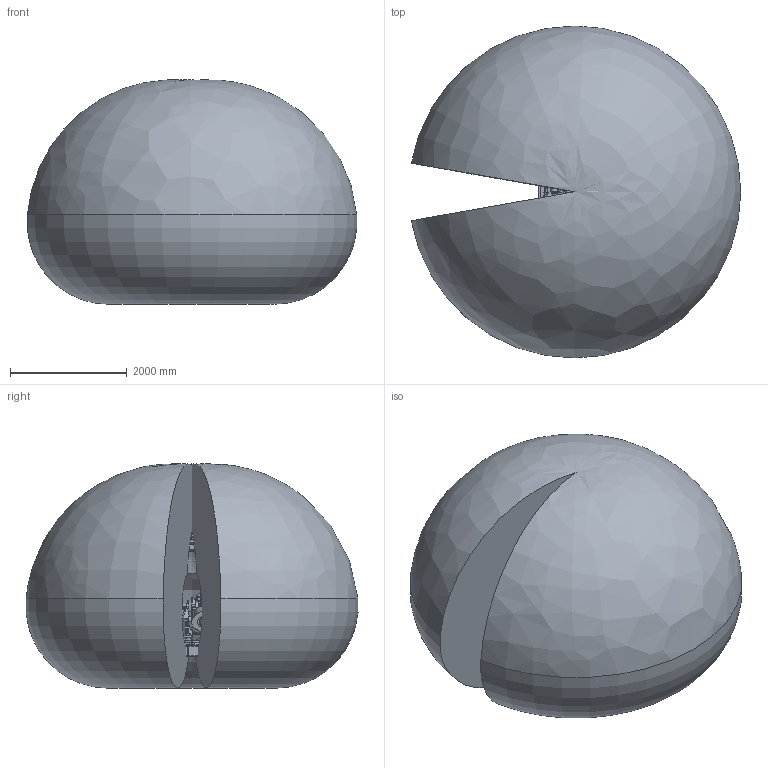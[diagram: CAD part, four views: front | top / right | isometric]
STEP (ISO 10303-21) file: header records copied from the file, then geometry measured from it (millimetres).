
FILE_DESCRIPTION(/* description */ (''),/* implementation_level */ '2;1');
FILE_NAME(/* name */ 'E:\组装完成的图纸\IRB 6700\IRB 6700-155-2.85\IRB 6700-155-2.85(带工作域）.stp',/* time_stamp */ '2023-11-04T18:37:17+08:00',/* author */ ('Administrator'),/* organization */ (''),/* preprocessor_version */ 'ST-DEVELOPER v16.5',/* originating_system */ 'Autodesk Inventor 2017',/* authorisation */ '');
FILE_SCHEMA (('AUTOMOTIVE_DESIGN { 1 0 10303 214 3 1 1 }'));
Products named in the file (17): 部件16; IRB6700_155-285_IRC5_rev00_CYLINDER_CAD; IRB6700_155-285_IRC5_rev00_LINK02m_CABLE; IRB6700_155-285_IRC5_rev00_LOGO1_CAD; IRB6700_155-285_IRC5_rev00_LOGO2_CAD; IRB6700_155-285_IRC5_rev00_LOGO3_CAD; IRB6700_155-285_IRC5_rev00_ROD_CAD; IRB6700_155-285_IRC5_rev01_LINK01m_CABLE; IRB6700_155-285_IRC5_rev01_LINK02_CAD; IRB6700_155-285_IRC5_rev01_LINK04_CAD; IRB6700_155-285_IRC5_rev01_LINK06_CAD; IRB6700_155-285_IRC5_rev02_BASE_CAD; IRB6700_155-285_IRC5_rev02_LINK03_CAD; IRB6700_155-285_IRC5_rev02_LINK03m_CABLE; IRB6700_155-285_IRC5_rev02_LINK05_CAD; IRB6700_155-285_IRC5_rev03_LINK01_CAD; IRB6700_155-285_Working-space
Assembly tree (16 placements, depth 2):
  部件16
    IRB6700_155-285_IRC5_rev00_CYLINDER_CAD
    IRB6700_155-285_IRC5_rev00_LINK02m_CABLE
    IRB6700_155-285_IRC5_rev00_LOGO1_CAD
    IRB6700_155-285_IRC5_rev00_LOGO2_CAD
    IRB6700_155-285_IRC5_rev00_LOGO3_CAD
    IRB6700_155-285_IRC5_rev00_ROD_CAD
    IRB6700_155-285_IRC5_rev01_LINK01m_CABLE
    IRB6700_155-285_IRC5_rev01_LINK02_CAD
    IRB6700_155-285_IRC5_rev01_LINK04_CAD
    IRB6700_155-285_IRC5_rev01_LINK06_CAD
    IRB6700_155-285_IRC5_rev02_BASE_CAD
    IRB6700_155-285_IRC5_rev02_LINK03_CAD
    IRB6700_155-285_IRC5_rev02_LINK03m_CABLE
    IRB6700_155-285_IRC5_rev02_LINK05_CAD
    IRB6700_155-285_IRC5_rev03_LINK01_CAD
    IRB6700_155-285_Working-space
Bounding box: 5644.17 x 5687.37 x 3841.34 mm (x, y, z)
Volume: 63893012126.8 mm3; surface area: 119992753.7 mm2
Topology: 17 solids, 24 shells, 5368 faces, 14157 edges, 9198 vertices
Faces by surface type: plane 3371, cylinder 1106, cone 484, bspline 380, torus 22, sphere 5
Full cylindrical faces by diameter (mm): 3.3 x1, 5 x17, 6 x14, 6.5 x8, 6.6 x9, 6.8 x12, 7 x16, 7.1 x2, 7.5 x8, 8 x4, 8.3 x4, 8.5 x6, 8.6 x4, 8.8 x4, 9 x5, 9.5 x14, 10 x4, 10.2 x40, 10.8 x1, 11.05 x4, 12 x1, 12.5 x2, 13 x5, 14 x1, 15.5 x1, 16 x4, 16.3 x1, 17 x4, 17.5 x8, 17.583 x1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
Entity records: 235333 total; most frequent: CARTESIAN_POINT 105852, ORIENTED_EDGE 26826, DIRECTION 25304, EDGE_CURVE 13413, VERTEX_POINT 9032, AXIS2_PLACEMENT_3D 8582, LINE 8140, VECTOR 8140
